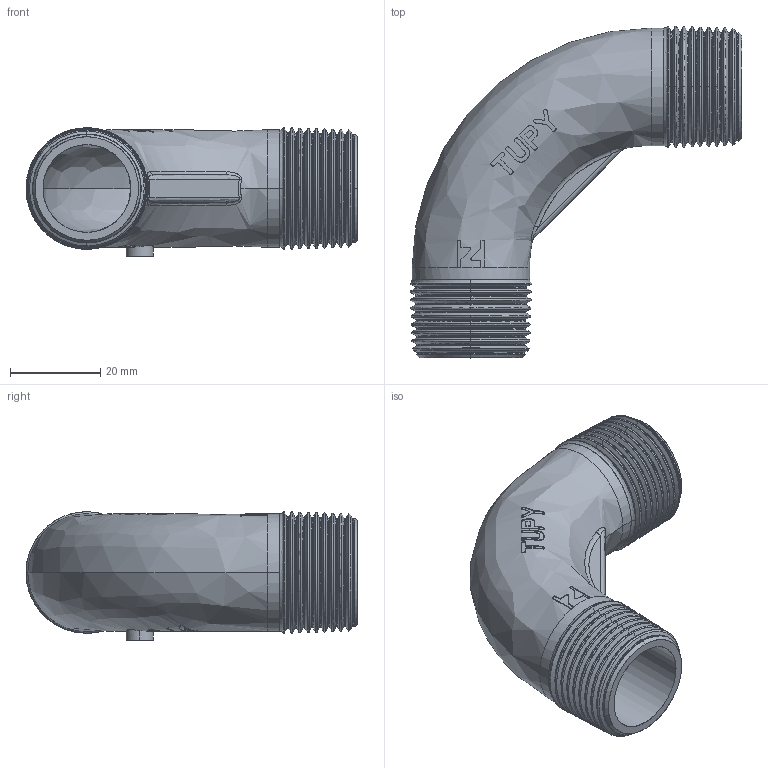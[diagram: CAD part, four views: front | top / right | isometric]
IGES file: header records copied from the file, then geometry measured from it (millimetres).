
Start section: SolidWorks IGES file using analytic representation for surfaces
Global section: file name: C:\Users\Joel Rosa\Desktop\Tubulação\12-25-OK\12-25-006.IGS; native system: SolidWorks 2011; preprocessor: SolidWorks 2011; author: Joel Rosa; date: 121207.021355; units: millimetre
Bounding box: 73.46 x 73.46 x 28.46 mm (x, y, z)
Surface area: 16834.2 mm2 (no closed solid volume)
Topology: 0 solids, 0 shells, 347 faces, 3029 edges, 3029 vertices
Faces by surface type: bspline 248, revolution 99
